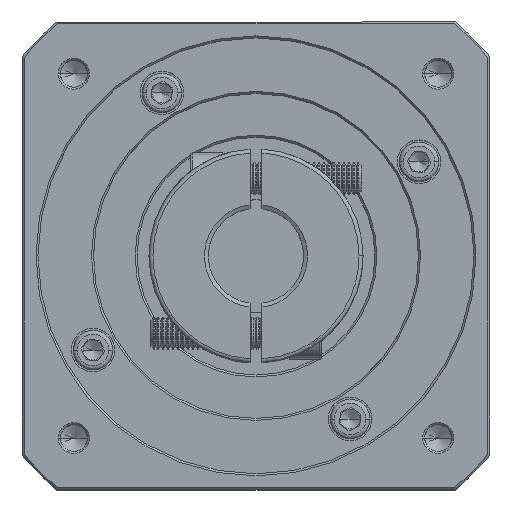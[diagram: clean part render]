
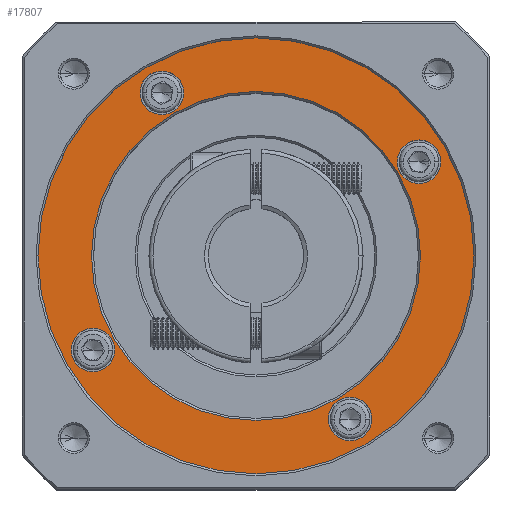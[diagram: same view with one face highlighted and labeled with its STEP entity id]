
A CAD part, top view. The second image highlights one B-rep face of the part: STEP entity #17807.
In plain terms, the highlighted planar face has unit normal (0, 0, 1).
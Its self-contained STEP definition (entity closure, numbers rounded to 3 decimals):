
#306 = CARTESIAN_POINT ( 'NONE',  ( 19.001, 186.482, 73.53 ) ) ;
#3272 = EDGE_LOOP ( 'NONE', ( #53378, #97406 ) ) ;
#4455 = CIRCLE ( 'NONE', #73355, 5.5 ) ;
#4579 = VERTEX_POINT ( 'NONE', #116846 ) ;
#5822 = DIRECTION ( 'NONE',  ( 0., 0., -1. ) ) ;
#6007 = DIRECTION ( 'NONE',  ( 0., 0., -1. ) ) ;
#6242 = CARTESIAN_POINT ( 'NONE',  ( 83.887, 169.096, 73.53 ) ) ;
#6441 = VERTEX_POINT ( 'NONE', #24364 ) ;
#6714 = DIRECTION ( 'NONE',  ( 0., 0., -1. ) ) ;
#6773 = DIRECTION ( 'NONE',  ( 1., 0., 0. ) ) ;
#7003 = EDGE_CURVE ( 'NONE', #8327, #111119, #83375, .T. ) ;
#7915 = CIRCLE ( 'NONE', #21301, 5.5 ) ;
#8327 = VERTEX_POINT ( 'NONE', #36868 ) ;
#9788 = DIRECTION ( 'NONE',  ( 1., 0., 0. ) ) ;
#10660 = EDGE_CURVE ( 'NONE', #111119, #8327, #57450, .T. ) ;
#11980 = CARTESIAN_POINT ( 'NONE',  ( 66.501, 104.21, 73.53 ) ) ;
#12074 = ORIENTED_EDGE ( 'NONE', *, *, #58890, .T. ) ;
#12831 = CARTESIAN_POINT ( 'NONE',  ( 42.751, 186.846, 73.53 ) ) ;
#14386 = CARTESIAN_POINT ( 'NONE',  ( -3.885, 121.596, 73.53 ) ) ;
#15107 = AXIS2_PLACEMENT_3D ( 'NONE', #63125, #6714, #72527 ) ;
#15703 = DIRECTION ( 'NONE',  ( 1., 0., 0. ) ) ;
#17270 = AXIS2_PLACEMENT_3D ( 'NONE', #11980, #77843, #21421 ) ;
#17807 = ADVANCED_FACE ( 'NONE', ( #69616, #47593, #119493, #44577, #19510, #116593 ), #41740, .T. ) ;
#17841 = CARTESIAN_POINT ( 'NONE',  ( 72.001, 104.21, 73.53 ) ) ;
#17980 = AXIS2_PLACEMENT_3D ( 'NONE', #89035, #32657, #98486 ) ;
#18344 = EDGE_CURVE ( 'NONE', #121329, #50738, #72419, .T. ) ;
#18989 = EDGE_CURVE ( 'NONE', #106611, #6441, #4455, .T. ) ;
#19510 = FACE_BOUND ( 'NONE', #120804, .T. ) ;
#21301 = AXIS2_PLACEMENT_3D ( 'NONE', #6242, #72067, #15703 ) ;
#21421 = DIRECTION ( 'NONE',  ( 1., 0., 0. ) ) ;
#23796 = CARTESIAN_POINT ( 'NONE',  ( 42.751, 145.346, 73.53 ) ) ;
#24364 = CARTESIAN_POINT ( 'NONE',  ( 78.387, 169.096, 73.53 ) ) ;
#26825 = CIRCLE ( 'NONE', #89074, 5.5 ) ;
#28315 = DIRECTION ( 'NONE',  ( 0., 0., -1. ) ) ;
#28750 = CARTESIAN_POINT ( 'NONE',  ( 13.501, 186.482, 73.53 ) ) ;
#29956 = EDGE_CURVE ( 'NONE', #91841, #71396, #61129, .T. ) ;
#30184 = AXIS2_PLACEMENT_3D ( 'NONE', #23796, #89651, #33284 ) ;
#32357 = ORIENTED_EDGE ( 'NONE', *, *, #18989, .T. ) ;
#32488 = ORIENTED_EDGE ( 'NONE', *, *, #82444, .T. ) ;
#32657 = DIRECTION ( 'NONE',  ( 0., 0., 1. ) ) ;
#32818 = CARTESIAN_POINT ( 'NONE',  ( 97.751, 145.346, 73.53 ) ) ;
#33284 = DIRECTION ( 'NONE',  ( 1., 0., 0. ) ) ;
#34782 = CARTESIAN_POINT ( 'NONE',  ( 24.501, 186.482, 73.53 ) ) ;
#36136 = EDGE_LOOP ( 'NONE', ( #39725, #12074 ) ) ;
#36868 = CARTESIAN_POINT ( 'NONE',  ( 7.115, 121.596, 73.53 ) ) ;
#38493 = ORIENTED_EDGE ( 'NONE', *, *, #72431, .T. ) ;
#39725 = ORIENTED_EDGE ( 'NONE', *, *, #41037, .T. ) ;
#41037 = EDGE_CURVE ( 'NONE', #4579, #107035, #107220, .T. ) ;
#41728 = CARTESIAN_POINT ( 'NONE',  ( 42.751, 145.346, 73.53 ) ) ;
#41740 = PLANE ( 'NONE',  #17980 ) ;
#43095 = AXIS2_PLACEMENT_3D ( 'NONE', #119348, #63175, #6773 ) ;
#44577 = FACE_BOUND ( 'NONE', #3272, .T. ) ;
#47308 = CARTESIAN_POINT ( 'NONE',  ( 1.615, 121.596, 73.53 ) ) ;
#47593 = FACE_BOUND ( 'NONE', #36136, .T. ) ;
#48463 = CIRCLE ( 'NONE', #43095, 5.5 ) ;
#50738 = VERTEX_POINT ( 'NONE', #17841 ) ;
#50990 = CARTESIAN_POINT ( 'NONE',  ( 61.001, 104.21, 73.53 ) ) ;
#51230 = DIRECTION ( 'NONE',  ( 0., -1., 0. ) ) ;
#53378 = ORIENTED_EDGE ( 'NONE', *, *, #62428, .T. ) ;
#54473 = ORIENTED_EDGE ( 'NONE', *, *, #119976, .T. ) ;
#54664 = DIRECTION ( 'NONE',  ( 0., 0., 1. ) ) ;
#56761 = DIRECTION ( 'NONE',  ( 1., 0., 0. ) ) ;
#57450 = CIRCLE ( 'NONE', #15107, 5.5 ) ;
#57453 = AXIS2_PLACEMENT_3D ( 'NONE', #41728, #107523, #51230 ) ;
#58215 = ORIENTED_EDGE ( 'NONE', *, *, #7003, .T. ) ;
#58890 = EDGE_CURVE ( 'NONE', #107035, #4579, #76563, .T. ) ;
#59797 = EDGE_CURVE ( 'NONE', #71396, #91841, #114356, .T. ) ;
#61129 = CIRCLE ( 'NONE', #30184, 55. ) ;
#61997 = VERTEX_POINT ( 'NONE', #34782 ) ;
#62251 = CARTESIAN_POINT ( 'NONE',  ( 66.501, 104.21, 73.53 ) ) ;
#62428 = EDGE_CURVE ( 'NONE', #50738, #121329, #118257, .T. ) ;
#62436 = CARTESIAN_POINT ( 'NONE',  ( 83.887, 169.096, 73.53 ) ) ;
#63012 = AXIS2_PLACEMENT_3D ( 'NONE', #84694, #28315, #94101 ) ;
#63125 = CARTESIAN_POINT ( 'NONE',  ( 1.615, 121.596, 73.53 ) ) ;
#63175 = DIRECTION ( 'NONE',  ( 0., 0., -1. ) ) ;
#66165 = DIRECTION ( 'NONE',  ( 0., 0., -1. ) ) ;
#69616 = FACE_OUTER_BOUND ( 'NONE', #116267, .T. ) ;
#71396 = VERTEX_POINT ( 'NONE', #32818 ) ;
#71507 = EDGE_LOOP ( 'NONE', ( #32357, #54473 ) ) ;
#71668 = DIRECTION ( 'NONE',  ( 1., 0., 0. ) ) ;
#71854 = DIRECTION ( 'NONE',  ( 1., 0., 0. ) ) ;
#72067 = DIRECTION ( 'NONE',  ( 0., 0., -1. ) ) ;
#72419 = CIRCLE ( 'NONE', #17270, 5.5 ) ;
#72431 = EDGE_CURVE ( 'NONE', #118472, #61997, #26825, .T. ) ;
#72527 = DIRECTION ( 'NONE',  ( 1., 0., 0. ) ) ;
#73355 = AXIS2_PLACEMENT_3D ( 'NONE', #62436, #6007, #71854 ) ;
#73614 = AXIS2_PLACEMENT_3D ( 'NONE', #62251, #5822, #71668 ) ;
#75532 = ORIENTED_EDGE ( 'NONE', *, *, #10660, .T. ) ;
#76563 = CIRCLE ( 'NONE', #57453, 41.5 ) ;
#77843 = DIRECTION ( 'NONE',  ( 0., 0., -1. ) ) ;
#80508 = CARTESIAN_POINT ( 'NONE',  ( 89.387, 169.096, 73.53 ) ) ;
#82444 = EDGE_CURVE ( 'NONE', #61997, #118472, #48463, .T. ) ;
#83375 = CIRCLE ( 'NONE', #104580, 5.5 ) ;
#84694 = CARTESIAN_POINT ( 'NONE',  ( 42.751, 145.346, 73.53 ) ) ;
#89035 = CARTESIAN_POINT ( 'NONE',  ( 42.751, 145.346, 73.53 ) ) ;
#89074 = AXIS2_PLACEMENT_3D ( 'NONE', #306, #66165, #9788 ) ;
#89651 = DIRECTION ( 'NONE',  ( 0., 0., 1. ) ) ;
#91841 = VERTEX_POINT ( 'NONE', #121129 ) ;
#94101 = DIRECTION ( 'NONE',  ( 0., -1., 0. ) ) ;
#97406 = ORIENTED_EDGE ( 'NONE', *, *, #18344, .T. ) ;
#98486 = DIRECTION ( 'NONE',  ( 1., 0., 0. ) ) ;
#98506 = AXIS2_PLACEMENT_3D ( 'NONE', #110936, #54664, #120329 ) ;
#104580 = AXIS2_PLACEMENT_3D ( 'NONE', #47308, #113040, #56761 ) ;
#106611 = VERTEX_POINT ( 'NONE', #80508 ) ;
#106704 = EDGE_LOOP ( 'NONE', ( #58215, #75532 ) ) ;
#107035 = VERTEX_POINT ( 'NONE', #12831 ) ;
#107220 = CIRCLE ( 'NONE', #63012, 41.5 ) ;
#107523 = DIRECTION ( 'NONE',  ( 0., 0., -1. ) ) ;
#110936 = CARTESIAN_POINT ( 'NONE',  ( 42.751, 145.346, 73.53 ) ) ;
#111119 = VERTEX_POINT ( 'NONE', #14386 ) ;
#112777 = ORIENTED_EDGE ( 'NONE', *, *, #29956, .T. ) ;
#113040 = DIRECTION ( 'NONE',  ( 0., 0., -1. ) ) ;
#114356 = CIRCLE ( 'NONE', #98506, 55. ) ;
#116267 = EDGE_LOOP ( 'NONE', ( #120012, #112777 ) ) ;
#116593 = FACE_BOUND ( 'NONE', #106704, .T. ) ;
#116846 = CARTESIAN_POINT ( 'NONE',  ( 42.751, 103.846, 73.53 ) ) ;
#118257 = CIRCLE ( 'NONE', #73614, 5.5 ) ;
#118472 = VERTEX_POINT ( 'NONE', #28750 ) ;
#119348 = CARTESIAN_POINT ( 'NONE',  ( 19.001, 186.482, 73.53 ) ) ;
#119493 = FACE_BOUND ( 'NONE', #71507, .T. ) ;
#119976 = EDGE_CURVE ( 'NONE', #6441, #106611, #7915, .T. ) ;
#120012 = ORIENTED_EDGE ( 'NONE', *, *, #59797, .T. ) ;
#120329 = DIRECTION ( 'NONE',  ( 1., 0., 0. ) ) ;
#120804 = EDGE_LOOP ( 'NONE', ( #32488, #38493 ) ) ;
#121129 = CARTESIAN_POINT ( 'NONE',  ( -12.249, 145.346, 73.53 ) ) ;
#121329 = VERTEX_POINT ( 'NONE', #50990 ) ;
